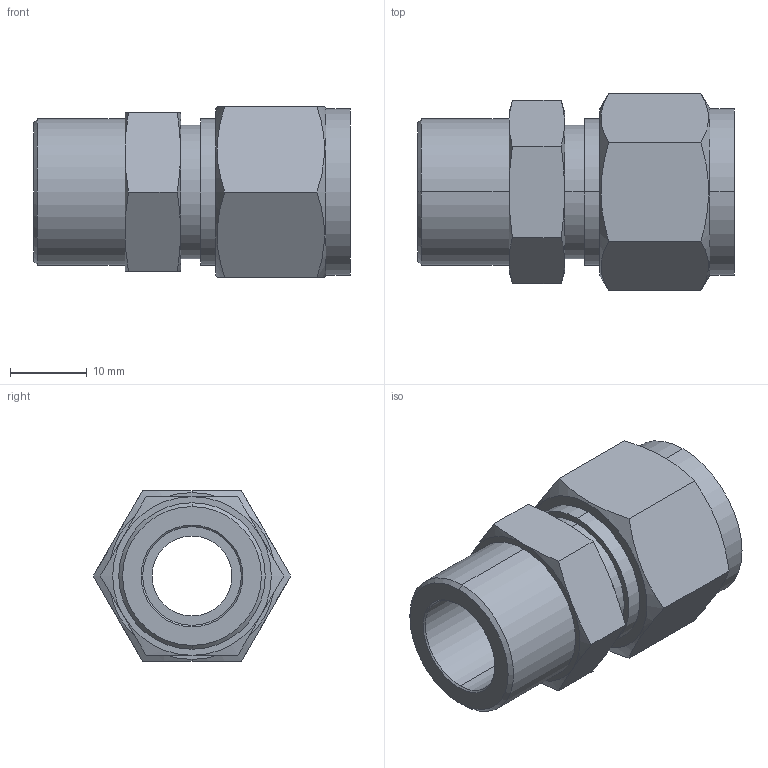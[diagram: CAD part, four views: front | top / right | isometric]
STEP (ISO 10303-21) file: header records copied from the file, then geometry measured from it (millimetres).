
FILE_DESCRIPTION (( 'STEP AP203' ), '1' );
FILE_NAME ('DCW08-08 SS.STEP', '2009-09-08T05:53:19', ( ' ' ), ( '' ), 'SwSTEP 2.0', 'SolidWorks 2008', '' );
FILE_SCHEMA (( 'CONFIG_CONTROL_DESIGN' ));
Length unit declared in the file: millimetre
Products named in the file (1): DCW08-08 SS
Bounding box: 41.2 x 25.67 x 22.23 mm (x, y, z)
Volume: 9459.8 mm3; surface area: 5269.4 mm2
Topology: 1 solids, 1 shells, 54 faces, 120 edges, 74 vertices
Faces by surface type: cone 20, plane 20, cylinder 14
Entity records: 1743 total; most frequent: CARTESIAN_POINT 505, ORIENTED_EDGE 240, DIRECTION 236, EDGE_CURVE 120, AXIS2_PLACEMENT_3D 101, VERTEX_POINT 74, EDGE_LOOP 62, FACE_OUTER_BOUND 54
